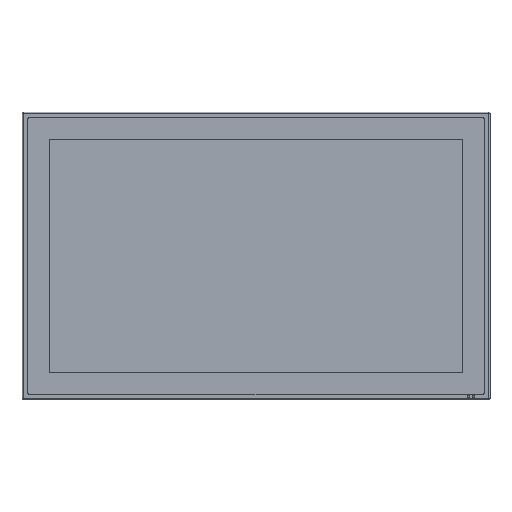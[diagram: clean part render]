
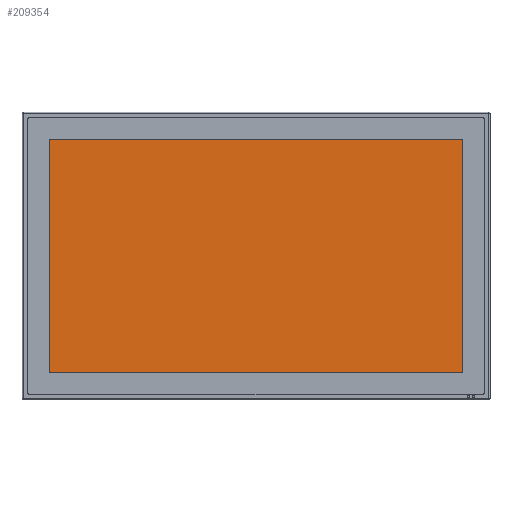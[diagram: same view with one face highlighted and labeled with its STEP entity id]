
A CAD part, top view. The second image highlights one B-rep face of the part: STEP entity #209354.
In plain terms, the highlighted planar face has unit normal (0, 0, 1).
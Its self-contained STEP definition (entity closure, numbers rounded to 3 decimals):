
#7430 = LINE ( 'NONE', #126948, #39261 ) ;
#9058 = EDGE_CURVE ( 'NONE', #122118, #22911, #180788, .T. ) ;
#11260 = EDGE_CURVE ( 'NONE', #158968, #191773, #167902, .T. ) ;
#19079 = CARTESIAN_POINT ( 'NONE',  ( -205.08, 115.62, 0. ) ) ;
#22911 = VERTEX_POINT ( 'NONE', #19079 ) ;
#25897 = VECTOR ( 'NONE', #139716, 1000. ) ;
#29461 = CARTESIAN_POINT ( 'NONE',  ( -205.08, -115.62, 0. ) ) ;
#39261 = VECTOR ( 'NONE', #213462, 1000. ) ;
#40130 = PLANE ( 'NONE',  #71939 ) ;
#50144 = LINE ( 'NONE', #279004, #260500 ) ;
#71939 = AXIS2_PLACEMENT_3D ( 'NONE', #216558, #142303, #267468 ) ;
#87537 = FACE_OUTER_BOUND ( 'NONE', #253203, .T. ) ;
#109575 = ORIENTED_EDGE ( 'NONE', *, *, #11260, .T. ) ;
#122118 = VERTEX_POINT ( 'NONE', #197992 ) ;
#126948 = CARTESIAN_POINT ( 'NONE',  ( 205.08, -115.62, 0. ) ) ;
#139716 = DIRECTION ( 'NONE',  ( -1., 0., 0. ) ) ;
#142303 = DIRECTION ( 'NONE',  ( 0., 0., 1. ) ) ;
#158073 = EDGE_CURVE ( 'NONE', #22911, #158968, #50144, .T. ) ;
#158968 = VERTEX_POINT ( 'NONE', #159341 ) ;
#159341 = CARTESIAN_POINT ( 'NONE',  ( -205.08, -115.62, 0. ) ) ;
#162376 = ORIENTED_EDGE ( 'NONE', *, *, #158073, .T. ) ;
#167902 = LINE ( 'NONE', #29461, #219318 ) ;
#174017 = DIRECTION ( 'NONE',  ( 0., -1., 0. ) ) ;
#177858 = CARTESIAN_POINT ( 'NONE',  ( 205.08, -115.62, 0. ) ) ;
#180788 = LINE ( 'NONE', #291390, #25897 ) ;
#181608 = DIRECTION ( 'NONE',  ( 1., 0., 0. ) ) ;
#191773 = VERTEX_POINT ( 'NONE', #177858 ) ;
#197992 = CARTESIAN_POINT ( 'NONE',  ( 205.08, 115.62, 0. ) ) ;
#209354 = ADVANCED_FACE ( 'NONE', ( #87537 ), #40130, .T. ) ;
#213462 = DIRECTION ( 'NONE',  ( 0., 1., 0. ) ) ;
#216558 = CARTESIAN_POINT ( 'NONE',  ( 0., 0., 0. ) ) ;
#216958 = ORIENTED_EDGE ( 'NONE', *, *, #322574, .T. ) ;
#219318 = VECTOR ( 'NONE', #181608, 1000. ) ;
#253203 = EDGE_LOOP ( 'NONE', ( #162376, #109575, #216958, #260639 ) ) ;
#260500 = VECTOR ( 'NONE', #174017, 1000. ) ;
#260639 = ORIENTED_EDGE ( 'NONE', *, *, #9058, .T. ) ;
#267468 = DIRECTION ( 'NONE',  ( 1., 0., 0. ) ) ;
#279004 = CARTESIAN_POINT ( 'NONE',  ( -205.08, 115.62, 0. ) ) ;
#291390 = CARTESIAN_POINT ( 'NONE',  ( 205.08, 115.62, 0. ) ) ;
#322574 = EDGE_CURVE ( 'NONE', #191773, #122118, #7430, .T. ) ;
